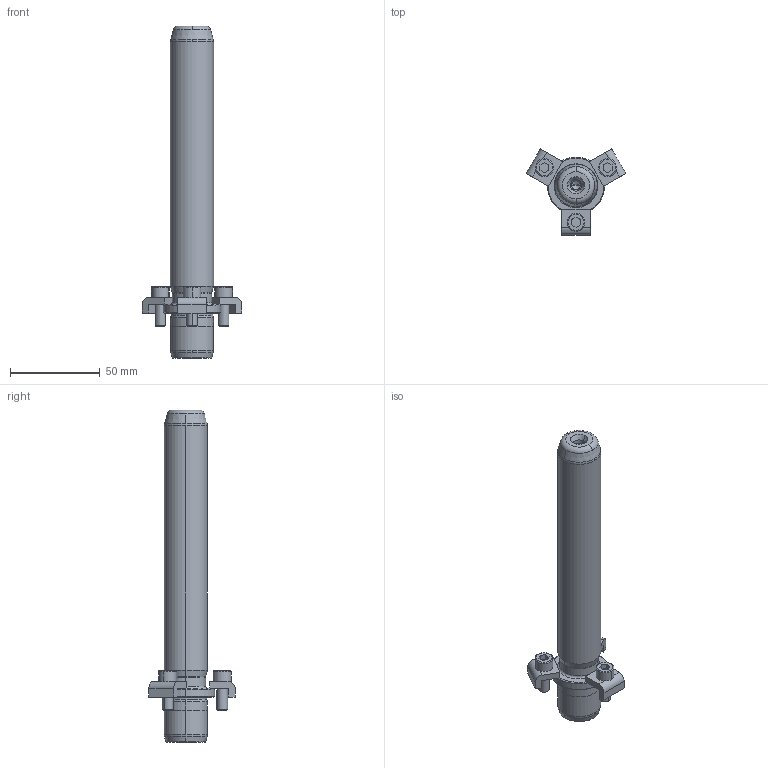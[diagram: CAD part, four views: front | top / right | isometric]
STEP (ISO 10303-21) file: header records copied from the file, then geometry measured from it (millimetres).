
FILE_DESCRIPTION((''),'2;1');
FILE_NAME('P21_024_160.stp','2008-12-23T09:27:53',(''),(''),'Mechanical Desktop 2009','Mechanical Desktop 2009',', , ');
FILE_SCHEMA(('CONFIG_CONTROL_DESIGN'));
Length unit declared in the file: millimetre
Products named in the file (2): Product; blmdl1
Assembly tree (1 placements, depth 2):
  Product
    blmdl1
Bounding box: 55.58 x 48.13 x 185 mm (x, y, z)
Volume: 88346.3 mm3; surface area: 20604.6 mm2
Topology: 7 solids, 7 shells, 163 faces, 417 edges, 269 vertices
Faces by surface type: plane 59, cylinder 44, cone 32, torus 14, bspline 14
Entity records: 5679 total; most frequent: CARTESIAN_POINT 1511, DIRECTION 914, ORIENTED_EDGE 826, EDGE_CURVE 413, AXIS2_PLACEMENT_3D 362, VERTEX_POINT 269, CIRCLE 211, VECTOR 190
